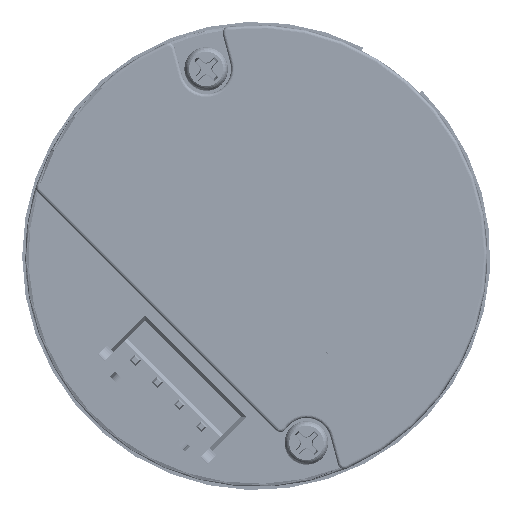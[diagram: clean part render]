
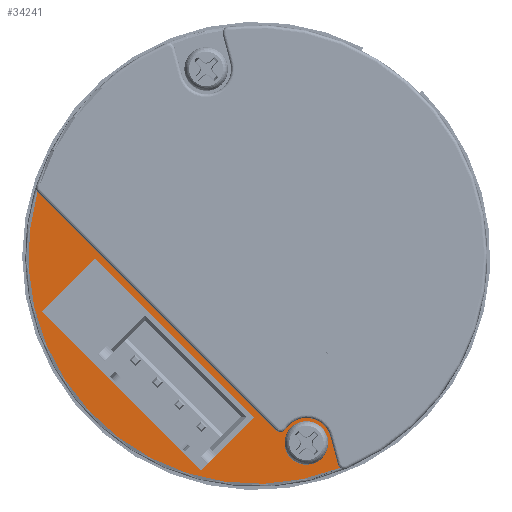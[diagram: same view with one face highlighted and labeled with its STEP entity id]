
A CAD part, front view. The second image highlights one B-rep face of the part: STEP entity #34241.
In plain terms, the highlighted planar face has unit normal (0, -1, 0) as drawn and (0, 0, -1) by its records, which use the part's own axes.
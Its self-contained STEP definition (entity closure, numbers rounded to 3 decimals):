
#751=FACE_BOUND('',#4858,.T.);
#752=FACE_BOUND('',#4859,.T.);
#1172=PLANE('',#36511);
#2788=FACE_OUTER_BOUND('',#4857,.T.);
#4857=EDGE_LOOP('',(#25206,#25207,#25208,#25209,#25210,#25211,#25212));
#4858=EDGE_LOOP('',(#25213,#25214,#25215,#25216));
#4859=EDGE_LOOP('',(#25217));
#6717=CIRCLE('',#36465,0.5);
#6720=CIRCLE('',#36471,0.5);
#6724=CIRCLE('',#36476,0.5);
#6725=CIRCLE('',#36478,18.25);
#6738=CIRCLE('',#36510,1.);
#6739=CIRCLE('',#36512,2.);
#9922=LINE('',#63131,#12439);
#9929=LINE('',#63150,#12446);
#9932=LINE('',#63155,#12449);
#9934=LINE('',#63159,#12451);
#9936=LINE('',#63163,#12453);
#9938=LINE('',#63170,#12455);
#12439=VECTOR('',#40394,10.);
#12446=VECTOR('',#40411,10.);
#12449=VECTOR('',#40416,10.);
#12451=VECTOR('',#40420,10.);
#12453=VECTOR('',#40426,10.);
#12455=VECTOR('',#40434,10.);
#14988=VERTEX_POINT('',#63020);
#14989=VERTEX_POINT('',#63021);
#14992=VERTEX_POINT('',#63034);
#14993=VERTEX_POINT('',#63036);
#14996=VERTEX_POINT('',#63065);
#14998=VERTEX_POINT('',#63069);
#15010=VERTEX_POINT('',#63147);
#15011=VERTEX_POINT('',#63149);
#15012=VERTEX_POINT('',#63153);
#15013=VERTEX_POINT('',#63157);
#15014=VERTEX_POINT('',#63165);
#15015=VERTEX_POINT('',#63169);
#18775=EDGE_CURVE('',#14988,#14989,#6717,.F.);
#18783=EDGE_CURVE('',#14992,#14993,#6720,.T.);
#18791=EDGE_CURVE('',#14998,#14996,#6724,.T.);
#18792=EDGE_CURVE('',#14993,#14998,#6725,.T.);
#18810=EDGE_CURVE('',#14996,#14988,#9922,.T.);
#18818=EDGE_CURVE('',#15010,#15011,#9929,.F.);
#18821=EDGE_CURVE('',#15012,#15010,#9932,.F.);
#18823=EDGE_CURVE('',#15013,#15012,#9934,.F.);
#18825=EDGE_CURVE('',#15011,#15013,#9936,.F.);
#18827=EDGE_CURVE('',#15014,#15014,#6738,.F.);
#18828=EDGE_CURVE('',#15015,#14992,#9938,.T.);
#18829=EDGE_CURVE('',#14989,#15015,#6739,.T.);
#25206=ORIENTED_EDGE('',*,*,#18792,.F.);
#25207=ORIENTED_EDGE('',*,*,#18783,.F.);
#25208=ORIENTED_EDGE('',*,*,#18828,.F.);
#25209=ORIENTED_EDGE('',*,*,#18829,.F.);
#25210=ORIENTED_EDGE('',*,*,#18775,.F.);
#25211=ORIENTED_EDGE('',*,*,#18810,.F.);
#25212=ORIENTED_EDGE('',*,*,#18791,.F.);
#25213=ORIENTED_EDGE('',*,*,#18818,.F.);
#25214=ORIENTED_EDGE('',*,*,#18821,.F.);
#25215=ORIENTED_EDGE('',*,*,#18823,.F.);
#25216=ORIENTED_EDGE('',*,*,#18825,.F.);
#25217=ORIENTED_EDGE('',*,*,#18827,.F.);
#34241=ADVANCED_FACE('',(#2788,#751,#752),#1172,.T.);
#36465=AXIS2_PLACEMENT_3D('',#63022,#40311,#40312);
#36471=AXIS2_PLACEMENT_3D('',#63037,#40328,#40329);
#36476=AXIS2_PLACEMENT_3D('',#63095,#40340,#40341);
#36478=AXIS2_PLACEMENT_3D('',#63097,#40344,#40345);
#36510=AXIS2_PLACEMENT_3D('',#63167,#40430,#40431);
#36511=AXIS2_PLACEMENT_3D('',#63168,#40432,#40433);
#36512=AXIS2_PLACEMENT_3D('',#63171,#40435,#40436);
#40311=DIRECTION('center_axis',(0.,0.,1.));
#40312=DIRECTION('ref_axis',(0.775,0.632,0.));
#40328=DIRECTION('center_axis',(0.,0.,-1.));
#40329=DIRECTION('ref_axis',(0.325,0.946,0.));
#40340=DIRECTION('center_axis',(0.,0.,-1.));
#40341=DIRECTION('ref_axis',(-0.52,0.854,0.));
#40344=DIRECTION('center_axis',(0.,0.,1.));
#40345=DIRECTION('ref_axis',(0.039,0.999,0.));
#40394=DIRECTION('',(1.,0.,0.));
#40411=DIRECTION('',(0.,1.,0.));
#40416=DIRECTION('',(-1.,0.,0.));
#40420=DIRECTION('',(0.,-1.,0.));
#40426=DIRECTION('',(1.,0.,0.));
#40430=DIRECTION('center_axis',(0.,0.,1.));
#40431=DIRECTION('ref_axis',(1.,0.,0.));
#40432=DIRECTION('center_axis',(0.,0.,-1.));
#40433=DIRECTION('ref_axis',(-1.,0.,0.));
#40434=DIRECTION('',(0.866,0.5,0.));
#40435=DIRECTION('center_axis',(0.,0.,1.));
#40436=DIRECTION('ref_axis',(-0.5,0.866,0.));
#63020=CARTESIAN_POINT('',(10.974,8.75,-82.95));
#63021=CARTESIAN_POINT('',(11.464,8.15,-82.95));
#63022=CARTESIAN_POINT('Origin',(10.974,8.25,-82.95));
#63034=CARTESIAN_POINT('',(16.437,7.181,-82.95));
#63036=CARTESIAN_POINT('',(16.751,7.244,-82.95));
#63037=CARTESIAN_POINT('Origin',(16.687,6.748,-82.95));
#63065=CARTESIAN_POINT('',(-15.998,8.75,-82.95));
#63069=CARTESIAN_POINT('',(-16.016,8.75,-82.95));
#63095=CARTESIAN_POINT('Origin',(-15.998,8.25,-82.95));
#63097=CARTESIAN_POINT('Origin',(0.,0.,-82.95));
#63131=CARTESIAN_POINT('',(-8.15,8.75,-82.95));
#63147=CARTESIAN_POINT('',(9.,15.25,-82.95));
#63149=CARTESIAN_POINT('',(9.,9.25,-82.95));
#63150=CARTESIAN_POINT('',(9.,4.625,-82.95));
#63153=CARTESIAN_POINT('',(-9.,15.25,-82.95));
#63155=CARTESIAN_POINT('',(4.5,15.25,-82.95));
#63157=CARTESIAN_POINT('',(-9.,9.25,-82.95));
#63159=CARTESIAN_POINT('',(-9.,7.625,-82.95));
#63163=CARTESIAN_POINT('',(-4.5,9.25,-82.95));
#63165=CARTESIAN_POINT('',(12.423,7.75,-82.95));
#63167=CARTESIAN_POINT('Origin',(13.423,7.75,-82.95));
#63168=CARTESIAN_POINT('Origin',(0.,0.,-82.95));
#63169=CARTESIAN_POINT('',(14.423,6.018,-82.95));
#63170=CARTESIAN_POINT('',(7.712,2.143,-82.95));
#63171=CARTESIAN_POINT('Origin',(13.423,7.75,-82.95));
